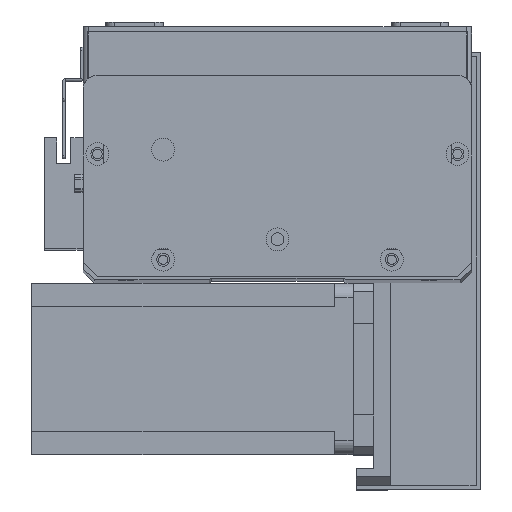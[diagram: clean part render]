
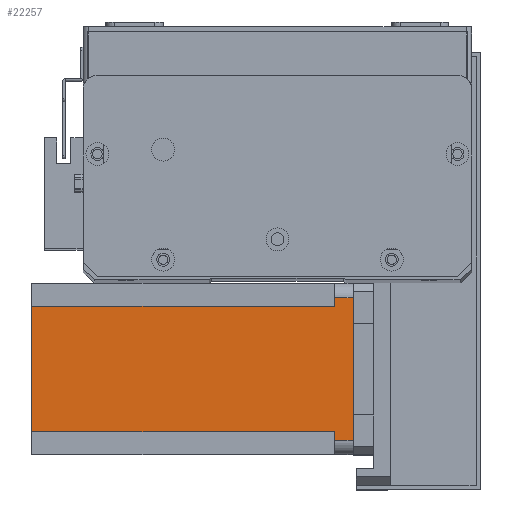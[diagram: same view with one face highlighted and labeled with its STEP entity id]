
A CAD part, top view. The second image highlights one B-rep face of the part: STEP entity #22257.
In plain terms, the highlighted planar face has unit normal (0, 0, 1) as drawn and (0, -1, 0) by its records, which use the part's own axes.
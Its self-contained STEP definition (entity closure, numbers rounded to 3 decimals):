
#1752 = DIRECTION ( 'NONE',  ( 0., 0., -1. ) ) ;
#2863 = CARTESIAN_POINT ( 'NONE',  ( 52., 0., -6.5 ) ) ;
#2879 = LINE ( 'NONE', #3133, #14269 ) ;
#3034 = CARTESIAN_POINT ( 'NONE',  ( 55., 0., -112.5 ) ) ;
#3133 = CARTESIAN_POINT ( 'NONE',  ( 52., 0., -112.5 ) ) ;
#3870 = VECTOR ( 'NONE', #18320, 1000. ) ;
#3993 = CARTESIAN_POINT ( 'NONE',  ( 8., 0., -6.5 ) ) ;
#4062 = CARTESIAN_POINT ( 'NONE',  ( 52., 0., -112.5 ) ) ;
#4380 = VECTOR ( 'NONE', #25567, 1000. ) ;
#4634 = EDGE_CURVE ( 'NONE', #27456, #18798, #13455, .T. ) ;
#5107 = ORIENTED_EDGE ( 'NONE', *, *, #8738, .F. ) ;
#5179 = LINE ( 'NONE', #20684, #15758 ) ;
#5456 = VERTEX_POINT ( 'NONE', #21126 ) ;
#6098 = VERTEX_POINT ( 'NONE', #4062 ) ;
#6815 = CARTESIAN_POINT ( 'NONE',  ( 52., 0., -6.5 ) ) ;
#7271 = EDGE_CURVE ( 'NONE', #12238, #6098, #24871, .T. ) ;
#7414 = CARTESIAN_POINT ( 'NONE',  ( 8., 0., -6.5 ) ) ;
#7633 = EDGE_CURVE ( 'NONE', #25091, #27456, #10508, .T. ) ;
#8130 = CARTESIAN_POINT ( 'NONE',  ( 55., 0., 0. ) ) ;
#8676 = DIRECTION ( 'NONE',  ( 0., 0., -1. ) ) ;
#8735 = VECTOR ( 'NONE', #28052, 1000. ) ;
#8738 = EDGE_CURVE ( 'NONE', #25091, #6098, #2879, .T. ) ;
#10014 = LINE ( 'NONE', #19979, #3870 ) ;
#10411 = DIRECTION ( 'NONE',  ( 0., -1., 0. ) ) ;
#10508 = LINE ( 'NONE', #6815, #4380 ) ;
#11074 = EDGE_CURVE ( 'NONE', #5456, #18798, #10014, .T. ) ;
#11272 = VERTEX_POINT ( 'NONE', #7414 ) ;
#11959 = VECTOR ( 'NONE', #8676, 1000. ) ;
#12238 = VERTEX_POINT ( 'NONE', #24519 ) ;
#12781 = VECTOR ( 'NONE', #23549, 1000. ) ;
#12869 = CARTESIAN_POINT ( 'NONE',  ( 5., 0., -6.5 ) ) ;
#13455 = LINE ( 'NONE', #3034, #12781 ) ;
#13525 = EDGE_CURVE ( 'NONE', #12238, #11272, #5179, .T. ) ;
#13774 = ORIENTED_EDGE ( 'NONE', *, *, #26623, .F. ) ;
#14269 = VECTOR ( 'NONE', #1752, 1000. ) ;
#15758 = VECTOR ( 'NONE', #20519, 1000. ) ;
#16399 = EDGE_CURVE ( 'NONE', #5456, #18900, #17789, .T. ) ;
#16644 = VECTOR ( 'NONE', #17469, 1000. ) ;
#16873 = CARTESIAN_POINT ( 'NONE',  ( 0., 0., -112.5 ) ) ;
#17469 = DIRECTION ( 'NONE',  ( -1., 0., 0. ) ) ;
#17742 = CARTESIAN_POINT ( 'NONE',  ( 55., 0., -6.5 ) ) ;
#17789 = LINE ( 'NONE', #28336, #11959 ) ;
#18320 = DIRECTION ( 'NONE',  ( 1., 0., 0. ) ) ;
#18444 = ORIENTED_EDGE ( 'NONE', *, *, #11074, .F. ) ;
#18798 = VERTEX_POINT ( 'NONE', #8130 ) ;
#18900 = VERTEX_POINT ( 'NONE', #12869 ) ;
#19979 = CARTESIAN_POINT ( 'NONE',  ( 0., 0., 0. ) ) ;
#20224 = ORIENTED_EDGE ( 'NONE', *, *, #7633, .T. ) ;
#20519 = DIRECTION ( 'NONE',  ( 0., 0., 1. ) ) ;
#20680 = ORIENTED_EDGE ( 'NONE', *, *, #16399, .T. ) ;
#20684 = CARTESIAN_POINT ( 'NONE',  ( 8., 0., -112.5 ) ) ;
#21126 = CARTESIAN_POINT ( 'NONE',  ( 5., 0., 0. ) ) ;
#21349 = AXIS2_PLACEMENT_3D ( 'NONE', #16873, #10411, #25722 ) ;
#21384 = PLANE ( 'NONE',  #21349 ) ;
#22257 = ADVANCED_FACE ( 'NONE', ( #27751 ), #21384, .T. ) ;
#23187 = ORIENTED_EDGE ( 'NONE', *, *, #13525, .F. ) ;
#23549 = DIRECTION ( 'NONE',  ( 0., 0., 1. ) ) ;
#24519 = CARTESIAN_POINT ( 'NONE',  ( 8., 0., -112.5 ) ) ;
#24871 = LINE ( 'NONE', #27672, #8735 ) ;
#25091 = VERTEX_POINT ( 'NONE', #2863 ) ;
#25567 = DIRECTION ( 'NONE',  ( 1., 0., 0. ) ) ;
#25722 = DIRECTION ( 'NONE',  ( 0., 0., -1. ) ) ;
#26623 = EDGE_CURVE ( 'NONE', #11272, #18900, #27535, .T. ) ;
#26840 = EDGE_LOOP ( 'NONE', ( #20224, #28122, #18444, #20680, #13774, #23187, #28626, #5107 ) ) ;
#27456 = VERTEX_POINT ( 'NONE', #17742 ) ;
#27535 = LINE ( 'NONE', #3993, #16644 ) ;
#27672 = CARTESIAN_POINT ( 'NONE',  ( 0., 0., -112.5 ) ) ;
#27751 = FACE_OUTER_BOUND ( 'NONE', #26840, .T. ) ;
#28052 = DIRECTION ( 'NONE',  ( 1., 0., 0. ) ) ;
#28122 = ORIENTED_EDGE ( 'NONE', *, *, #4634, .T. ) ;
#28336 = CARTESIAN_POINT ( 'NONE',  ( 5., 0., -112.5 ) ) ;
#28626 = ORIENTED_EDGE ( 'NONE', *, *, #7271, .T. ) ;
